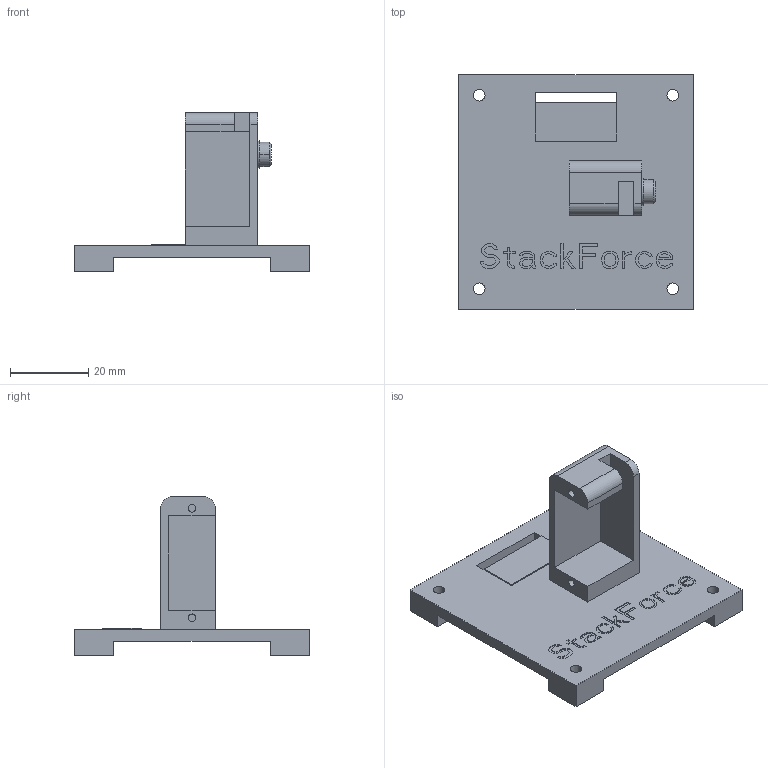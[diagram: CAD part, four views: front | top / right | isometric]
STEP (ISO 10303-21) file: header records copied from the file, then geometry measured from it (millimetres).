
FILE_DESCRIPTION((''),'2;1');
FILE_NAME('_X2_5B9E4F53_X0_1','2026-11-09T',('PC'),(''),'PRO/ENGINEER BY PARAMETRIC TECHNOLOGY CORPORATION, 2014320','PRO/ENGINEER BY PARAMETRIC TECHNOLOGY CORPORATION, 2014320','');
FILE_SCHEMA(('CONFIG_CONTROL_DESIGN'));
Length unit declared in the file: millimetre
Products named in the file (1): _X2_5B9E4F53_X0_1
Bounding box: 60 x 60 x 40.6 mm (x, y, z)
Volume: 15159.8 mm3; surface area: 11631.6 mm2
Topology: 1 solids, 1 shells, 399 faces, 1136 edges, 756 vertices
Faces by surface type: plane 378, cylinder 19, cone 2
Entity records: 12800 total; most frequent: CARTESIAN_POINT 2291, ORIENTED_EDGE 2272, DIRECTION 1974, EDGE_CURVE 1136, VECTOR 1096, LINE 1096, VERTEX_POINT 756, AXIS2_PLACEMENT_3D 439
